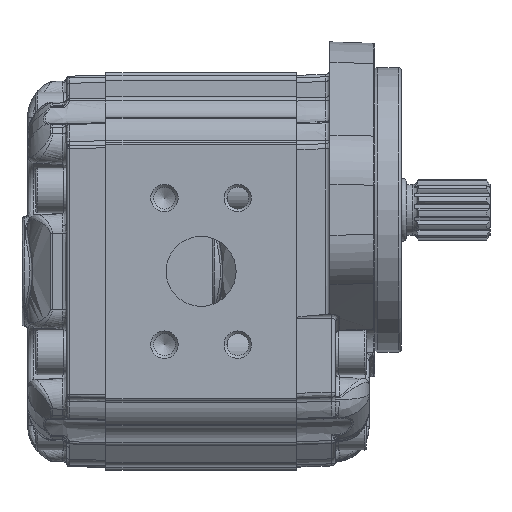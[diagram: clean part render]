
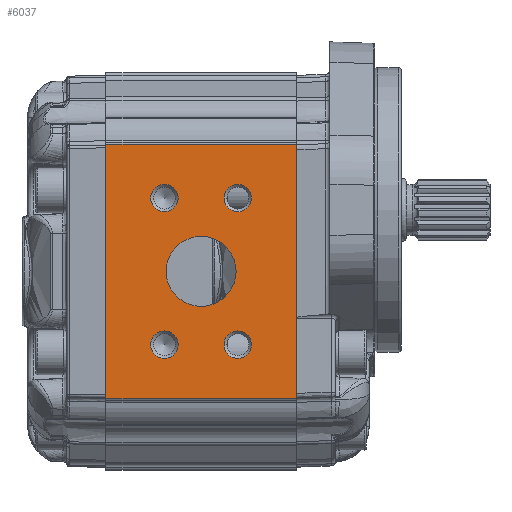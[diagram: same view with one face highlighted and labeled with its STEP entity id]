
A CAD part, left-side view. The second image highlights one B-rep face of the part: STEP entity #6037.
In plain terms, the highlighted planar face has unit normal (-1, 0, 0).
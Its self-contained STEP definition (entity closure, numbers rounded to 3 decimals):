
#6037 = ADVANCED_FACE( '', ( #13800, #13801, #13802, #13803, #13804, #13805 ), #13806, .T. );
#13800 = FACE_BOUND( '', #45268, .T. );
#13801 = FACE_BOUND( '', #45269, .T. );
#13802 = FACE_BOUND( '', #45270, .T. );
#13803 = FACE_BOUND( '', #45271, .T. );
#13804 = FACE_BOUND( '', #45272, .T. );
#13805 = FACE_OUTER_BOUND( '', #45273, .T. );
#13806 = PLANE( '', #45274 );
#45268 = EDGE_LOOP( '', ( #91679 ) );
#45269 = EDGE_LOOP( '', ( #91680 ) );
#45270 = EDGE_LOOP( '', ( #91681 ) );
#45271 = EDGE_LOOP( '', ( #91682 ) );
#45272 = EDGE_LOOP( '', ( #91683 ) );
#45273 = EDGE_LOOP( '', ( #91684, #91685, #91686, #91687 ) );
#45274 = AXIS2_PLACEMENT_3D( '', #91688, #91689, #91690 );
#91679 = ORIENTED_EDGE( '', *, *, #111679, .T. );
#91680 = ORIENTED_EDGE( '', *, *, #111680, .T. );
#91681 = ORIENTED_EDGE( '', *, *, #111681, .T. );
#91682 = ORIENTED_EDGE( '', *, *, #108712, .T. );
#91683 = ORIENTED_EDGE( '', *, *, #110929, .T. );
#91684 = ORIENTED_EDGE( '', *, *, #111682, .F. );
#91685 = ORIENTED_EDGE( '', *, *, #107336, .T. );
#91686 = ORIENTED_EDGE( '', *, *, #111683, .F. );
#91687 = ORIENTED_EDGE( '', *, *, #111684, .T. );
#91688 = CARTESIAN_POINT( '', ( -57.5, -154.175, -84.819 ) );
#91689 = DIRECTION( '', ( -1., 0., 0. ) );
#91690 = DIRECTION( '', ( 0., 0., -1. ) );
#107336 = EDGE_CURVE( '', #119969, #119966, #119970, .F. );
#108712 = EDGE_CURVE( '', #122189, #122189, #122190, .F. );
#110929 = EDGE_CURVE( '', #125468, #125468, #125469, .F. );
#111679 = EDGE_CURVE( '', #126524, #126524, #126525, .T. );
#111680 = EDGE_CURVE( '', #126526, #126526, #126527, .F. );
#111681 = EDGE_CURVE( '', #126528, #126528, #126529, .F. );
#111682 = EDGE_CURVE( '', #119969, #126530, #126531, .T. );
#111683 = EDGE_CURVE( '', #126532, #119966, #126533, .T. );
#111684 = EDGE_CURVE( '', #126532, #126530, #126534, .F. );
#119966 = VERTEX_POINT( '', #144365 );
#119969 = VERTEX_POINT( '', #144368 );
#119970 = LINE( '', #144369, #144370 );
#122189 = VERTEX_POINT( '', #150596 );
#122190 = CIRCLE( '', #150597, 4.903 );
#125468 = VERTEX_POINT( '', #160567 );
#125469 = CIRCLE( '', #160568, 4.903 );
#126524 = VERTEX_POINT( '', #163609 );
#126525 = CIRCLE( '', #163610, 12.5 );
#126526 = VERTEX_POINT( '', #163611 );
#126527 = CIRCLE( '', #163612, 4.903 );
#126528 = VERTEX_POINT( '', #163613 );
#126529 = CIRCLE( '', #163614, 4.903 );
#126530 = VERTEX_POINT( '', #163615 );
#126531 = LINE( '', #163616, #163617 );
#126532 = VERTEX_POINT( '', #163618 );
#126533 = LINE( '', #163619, #163620 );
#126534 = LINE( '', #163621, #163622 );
#144365 = CARTESIAN_POINT( '', ( -57.5, 0., -45.5 ) );
#144368 = CARTESIAN_POINT( '', ( -57.5, 68., -45.5 ) );
#144369 = CARTESIAN_POINT( '', ( -57.5, -154.175, -45.5 ) );
#144370 = VECTOR( '', #178319, 1000. );
#150596 = CARTESIAN_POINT( '', ( -57.5, 47.095, -31.088 ) );
#150597 = AXIS2_PLACEMENT_3D( '', #178888, #178889, #178890 );
#160567 = CARTESIAN_POINT( '', ( -57.5, 20.905, -31.088 ) );
#160568 = AXIS2_PLACEMENT_3D( '', #179671, #179672, #179673 );
#163609 = CARTESIAN_POINT( '', ( -57.5, 34., -12.5 ) );
#163610 = AXIS2_PLACEMENT_3D( '', #179928, #179929, #179930 );
#163611 = CARTESIAN_POINT( '', ( -57.5, 20.905, 21.282 ) );
#163612 = AXIS2_PLACEMENT_3D( '', #179931, #179932, #179933 );
#163613 = CARTESIAN_POINT( '', ( -57.5, 47.095, 21.282 ) );
#163614 = AXIS2_PLACEMENT_3D( '', #179934, #179935, #179936 );
#163615 = CARTESIAN_POINT( '', ( -57.5, 68., 45.5 ) );
#163616 = CARTESIAN_POINT( '', ( -57.5, 68., -84.819 ) );
#163617 = VECTOR( '', #179937, 1000. );
#163618 = CARTESIAN_POINT( '', ( -57.5, 0., 45.5 ) );
#163619 = CARTESIAN_POINT( '', ( -57.5, 0., -44.978 ) );
#163620 = VECTOR( '', #179938, 1000. );
#163621 = CARTESIAN_POINT( '', ( -57.5, -154.175, 45.5 ) );
#163622 = VECTOR( '', #179939, 1000. );
#178319 = DIRECTION( '', ( 0., 1., 0. ) );
#178888 = CARTESIAN_POINT( '', ( -57.5, 47.095, -26.185 ) );
#178889 = DIRECTION( '', ( -1., 0., 0. ) );
#178890 = DIRECTION( '', ( 0., 0., -1. ) );
#179671 = CARTESIAN_POINT( '', ( -57.5, 20.905, -26.185 ) );
#179672 = DIRECTION( '', ( -1., 0., 0. ) );
#179673 = DIRECTION( '', ( 0., 0., -1. ) );
#179928 = CARTESIAN_POINT( '', ( -57.5, 34., 0. ) );
#179929 = DIRECTION( '', ( 1., 0., 0. ) );
#179930 = DIRECTION( '', ( 0., 0., -1. ) );
#179931 = CARTESIAN_POINT( '', ( -57.5, 20.905, 26.185 ) );
#179932 = DIRECTION( '', ( -1., 0., 0. ) );
#179933 = DIRECTION( '', ( 0., 0., -1. ) );
#179934 = CARTESIAN_POINT( '', ( -57.5, 47.095, 26.185 ) );
#179935 = DIRECTION( '', ( -1., 0., 0. ) );
#179936 = DIRECTION( '', ( 0., 0., -1. ) );
#179937 = DIRECTION( '', ( 0., 0., 1. ) );
#179938 = DIRECTION( '', ( 0., 0., -1. ) );
#179939 = DIRECTION( '', ( 0., -1., 0. ) );
